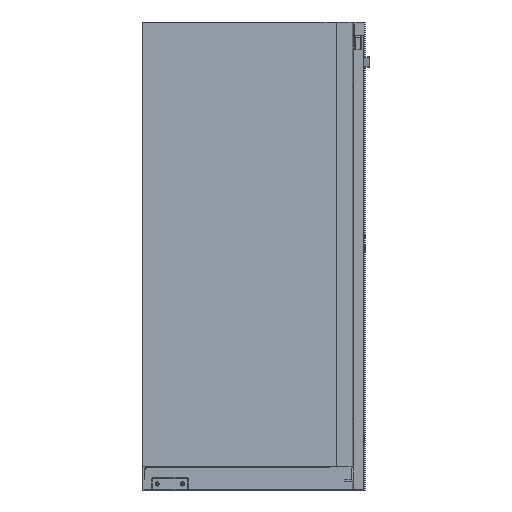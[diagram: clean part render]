
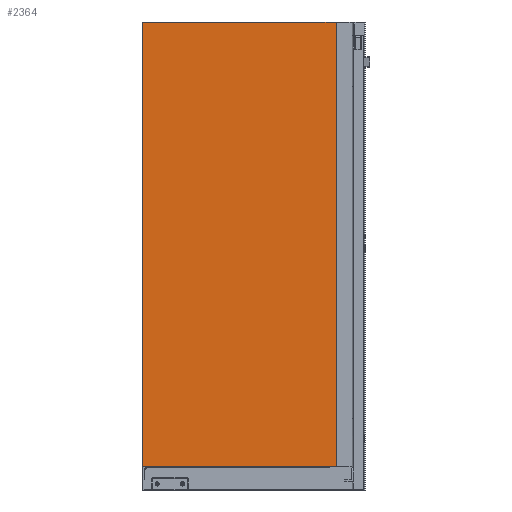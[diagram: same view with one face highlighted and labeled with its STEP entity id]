
A CAD part, left-side view. The second image highlights one B-rep face of the part: STEP entity #2364.
In plain terms, the highlighted planar face has unit normal (-1, 0, 0).
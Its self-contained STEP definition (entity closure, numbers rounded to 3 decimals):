
#1464 = CARTESIAN_POINT ( 'NONE',  ( 0.5, 205.8, -473.5 ) ) ;
#1688 = VERTEX_POINT ( 'NONE', #1464 ) ;
#2134 = VECTOR ( 'NONE', #6460, 1000. ) ;
#2334 = ORIENTED_EDGE ( 'NONE', *, *, #6257, .F. ) ;
#2364 = ADVANCED_FACE ( 'NONE', ( #10370 ), #6533, .T. ) ;
#2674 = ORIENTED_EDGE ( 'NONE', *, *, #9018, .T. ) ;
#2738 = VECTOR ( 'NONE', #5348, 1000. ) ;
#2880 = VERTEX_POINT ( 'NONE', #10512 ) ;
#3284 = ORIENTED_EDGE ( 'NONE', *, *, #9650, .T. ) ;
#3701 = LINE ( 'NONE', #11896, #8720 ) ;
#3734 = ORIENTED_EDGE ( 'NONE', *, *, #10906, .F. ) ;
#3808 = CARTESIAN_POINT ( 'NONE',  ( 0.5, 205.8, 0. ) ) ;
#4093 = CARTESIAN_POINT ( 'NONE',  ( 0.5, 0., -473.5 ) ) ;
#4166 = VERTEX_POINT ( 'NONE', #5521 ) ;
#5152 = DIRECTION ( 'NONE',  ( 0., 0., 1. ) ) ;
#5348 = DIRECTION ( 'NONE',  ( 0., 0., 1. ) ) ;
#5411 = LINE ( 'NONE', #11104, #2738 ) ;
#5521 = CARTESIAN_POINT ( 'NONE',  ( 0.5, 0., 0. ) ) ;
#6257 = EDGE_CURVE ( 'NONE', #2880, #1688, #12126, .T. ) ;
#6460 = DIRECTION ( 'NONE',  ( 0., 1., 0. ) ) ;
#6533 = PLANE ( 'NONE',  #12021 ) ;
#7534 = EDGE_LOOP ( 'NONE', ( #2334, #2674, #3284, #3734 ) ) ;
#7612 = CARTESIAN_POINT ( 'NONE',  ( 0.5, 0., -562.455 ) ) ;
#8720 = VECTOR ( 'NONE', #5152, 1000. ) ;
#9018 = EDGE_CURVE ( 'NONE', #2880, #4166, #3701, .T. ) ;
#9650 = EDGE_CURVE ( 'NONE', #4166, #11189, #9730, .T. ) ;
#9730 = LINE ( 'NONE', #10240, #2134 ) ;
#10240 = CARTESIAN_POINT ( 'NONE',  ( 0.5, 0., 0. ) ) ;
#10370 = FACE_OUTER_BOUND ( 'NONE', #7534, .T. ) ;
#10512 = CARTESIAN_POINT ( 'NONE',  ( 0.5, 0., -473.5 ) ) ;
#10906 = EDGE_CURVE ( 'NONE', #1688, #11189, #5411, .T. ) ;
#10961 = DIRECTION ( 'NONE',  ( 0., 1., 0. ) ) ;
#11104 = CARTESIAN_POINT ( 'NONE',  ( 0.5, 205.8, -562.455 ) ) ;
#11189 = VERTEX_POINT ( 'NONE', #3808 ) ;
#11257 = DIRECTION ( 'NONE',  ( -1., 0., 0. ) ) ;
#11896 = CARTESIAN_POINT ( 'NONE',  ( 0.5, 0., -562.455 ) ) ;
#12021 = AXIS2_PLACEMENT_3D ( 'NONE', #7612, #11257, #12154 ) ;
#12126 = LINE ( 'NONE', #4093, #12421 ) ;
#12154 = DIRECTION ( 'NONE',  ( 0., 0., 1. ) ) ;
#12421 = VECTOR ( 'NONE', #10961, 1000. ) ;
